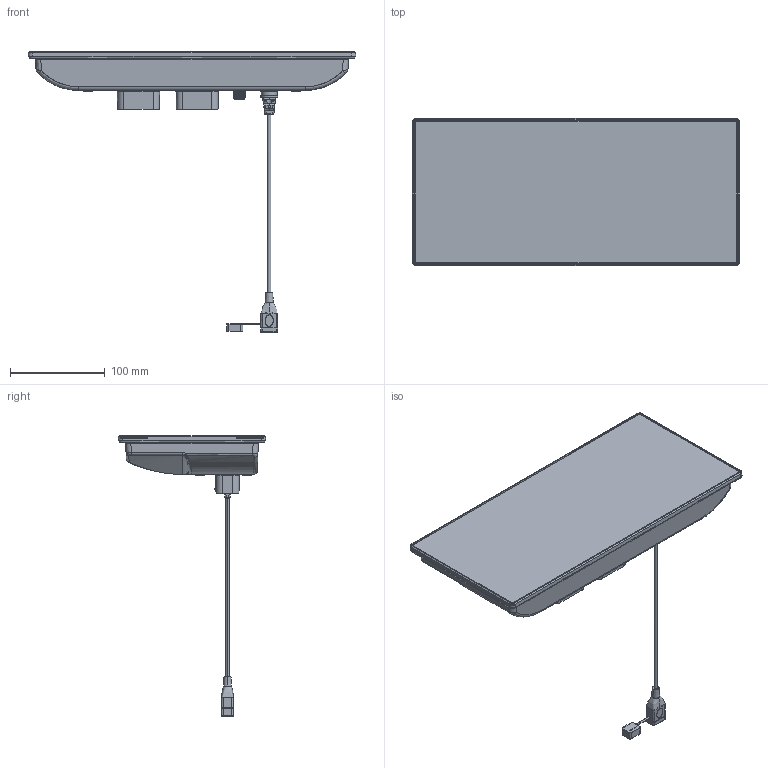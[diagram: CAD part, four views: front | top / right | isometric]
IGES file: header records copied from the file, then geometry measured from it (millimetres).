
Start section: SolidWorks IGES file using analytic representation for surfaces
Global section: file name: C:\Users\csiebert\Desktop\PV1200-IGES.IGS; native system: SolidWorks 2015; preprocessor: SolidWorks 2015; author: csiebert; date: 170419.081026; units: millimetre
Bounding box: 345.35 x 155.35 x 296.42 mm (x, y, z)
Surface area: 163202.9 mm2 (no closed solid volume)
Topology: 0 solids, 0 shells, 1795 faces, 20958 edges, 25530 vertices
Faces by surface type: bspline 1061, revolution 734
